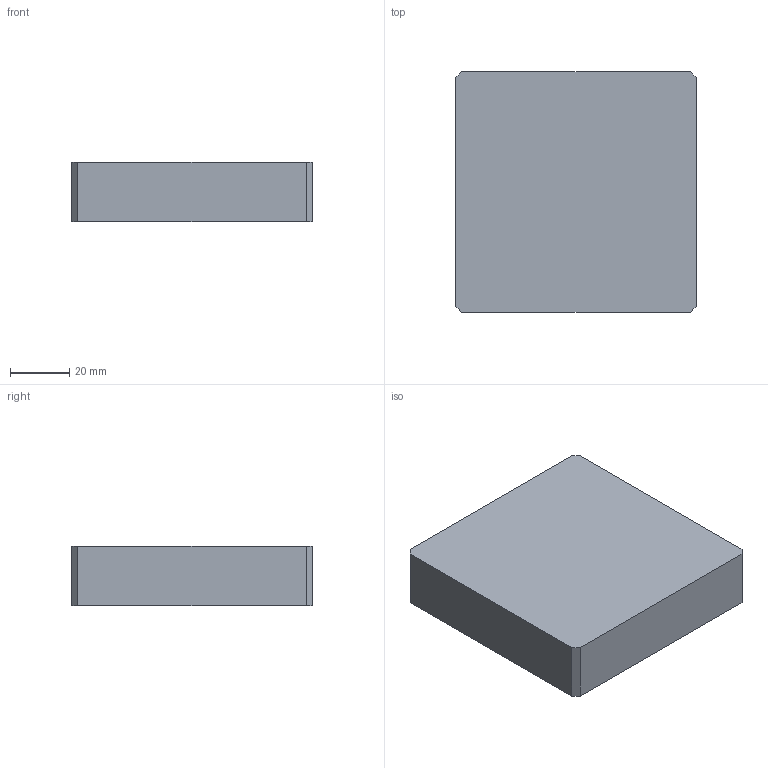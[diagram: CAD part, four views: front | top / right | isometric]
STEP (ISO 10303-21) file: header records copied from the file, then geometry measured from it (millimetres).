
FILE_DESCRIPTION(/* description */ (''),/* implementation_level */ '2;1');
FILE_NAME(/* name */ 'LA-2150-0074#-B.stp',/* time_stamp */ '2012-09-04T13:22:10+01:00',/* author */ (''),/* organization */ (''),/* preprocessor_version */ 'ST-DEVELOPER v11',/* originating_system */ 'SIEMENS PLM Software NX 7.5',/* authorisation */ '');
FILE_SCHEMA (('AUTOMOTIVE_DESIGN { 1 0 10303 214 1 1 1 1 }'));
Length unit declared in the file: millimetre
Products named in the file (1): rt133622tjlk
Bounding box: 81 x 81 x 20 mm (x, y, z)
Volume: 131060 mm3; surface area: 19492.3 mm2
Topology: 1 solids, 1 shells, 10 faces, 24 edges, 16 vertices
Faces by surface type: plane 10
Entity records: 383 total; most frequent: CARTESIAN_POINT 51, ORIENTED_EDGE 48, DIRECTION 46, EDGE_CURVE 24, LINE 24, VECTOR 24, VERTEX_POINT 16, PRESENTATION_STYLE_ASSIGNMENT 11
